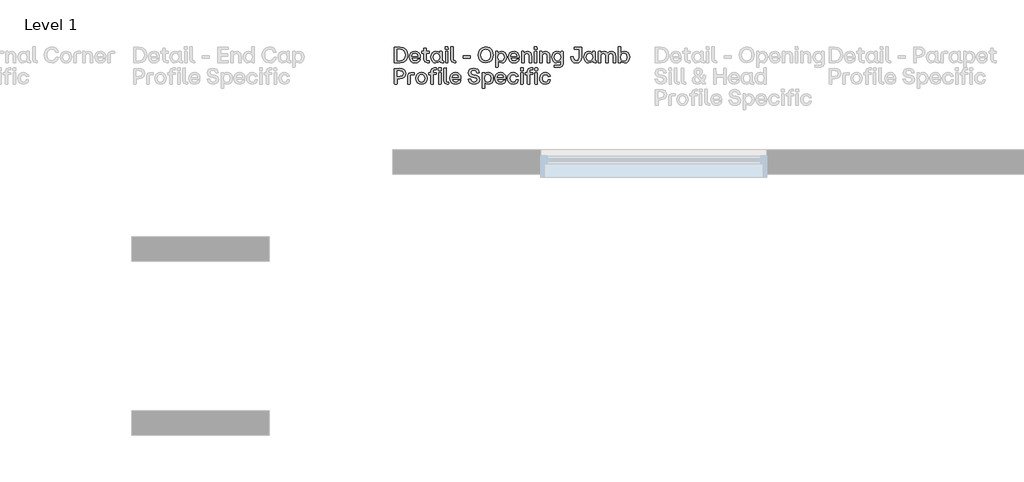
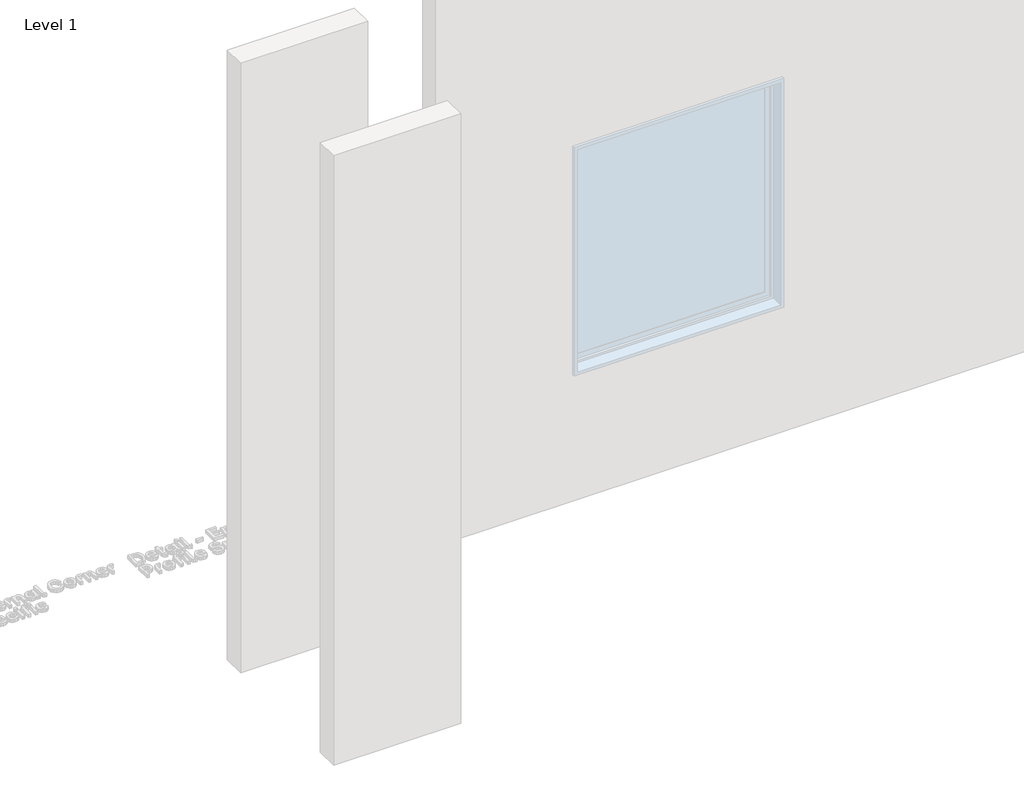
# One storey, part 60 of 64: 1 proxy.
"""IFC4 building model written with IfcOpenShell, lengths in millimetres."""

from ifc_helpers import new_model, si_unit, origin, origin_with_axes, place, context, project, spatial, polyline, outline, extrude, element, save

model = new_model("IFC4")

# Units and contexts
model_context = context("Model", 3, world=origin())
ifc_project = project(units=[si_unit("LENGTHUNIT", "METRE", prefix="MILLI")], contexts=[model_context])

# Site, building, storey
site = spatial("IfcSite", under=ifc_project)
building = spatial("IfcBuilding", under=site)
storey = spatial("IfcBuildingStorey", under=building, Name="Level 1", Elevation=0.0)

# Proxy
placement = place(None, origin())
element("IfcBuildingElementProxy", 1, Name="90mm", ObjectType="90mm", at=placement, inside=storey, context=model_context, shape_type="SweptSolid", body=[
    extrude(outline(polyline([(13610.2926176, 6000.0), (13608.9872124, 6001.2551973), (13608.9872124, 6088.6922388), (13642.5511873, 6089.997644), (13660.5475781, 6086.9945845), (13674.1193986, 6077.9854062), (13682.63905, 6063.6416394), (13685.4789338, 6044.6348148), (13682.648464, 6025.7974418), (13674.1570545, 6011.7109905), (13660.594648, 6002.9277476), (13642.5511873, 6000.0), (13610.2926176, 6000.0)]), holes=[polyline([(13623.7985402, 6012.6272845), (13641.6725492, 6012.6272845), (13653.8950326, 6014.688946), (13662.9481429, 6020.8739305), (13668.5494607, 6030.9374746), (13670.4165666, 6044.6348148), (13668.5431847, 6058.4890546), (13662.923039, 6068.8224661), (13653.8636527, 6075.2522141), (13641.6725492, 6077.3954634), (13623.7985402, 6077.3954634), (13623.7985402, 6012.6272845)])]), origin_with_axes(), (0.0, 0.0, 1.0), 20.0),
    extrude(outline(polyline([(13727.628458, 5999.2468816), (13714.0409476, 6001.5156507), (13703.5035666, 6008.3219579), (13696.7443293, 6018.9377888), (13694.4912502, 6032.6351289), (13696.7349153, 6046.4987827), (13703.4659107, 6057.2118914), (13713.9938777, 6064.0652685), (13727.628458, 6066.3497275), (13740.1584647, 6064.0966484), (13749.7324819, 6057.3374111), (13755.8044987, 6046.6870623), (13757.8285043, 6032.7606486), (13757.8285043, 6029.3214081), (13756.573307, 6027.990899), (13709.1268503, 6027.990899), (13714.6497183, 6015.3134066), (13727.628458, 6010.7946965), (13738.0465953, 6013.0917075), (13743.4439436, 6019.5308695), (13744.8246606, 6020.5852352), (13756.1967478, 6020.5852352), (13754.1633282, 6011.2685335), (13747.8120301, 6004.8074055), (13738.8248176, 6000.6370126), (13727.628458, 5999.2468816)]), holes=[polyline([(13709.2523701, 6038.4090363), (13743.8205028, 6038.4090363), (13739.0633051, 6050.3710663), (13727.628458, 6054.7266008), (13714.8631018, 6050.5844498), (13709.2523701, 6038.4090363)])]), origin_with_axes(), (0.0, 0.0, 1.0), 20.0),
    extrude(outline(polyline([(13796.6140998, 6000.0), (13782.731618, 6004.7697496), (13777.9618684, 6018.6522314), (13777.9618684, 6054.2245219), (13766.7906127, 6054.2245219), (13765.4852076, 6064.2661), (13766.7906127, 6065.5212973), (13777.9618684, 6065.5212973), (13777.9618684, 6083.54593), (13779.2170657, 6084.8513352), (13790.9657121, 6084.8513352), (13792.2209094, 6083.54593), (13792.2209094, 6065.5212973), (13808.0363949, 6065.5212973), (13809.3418001, 6064.2661), (13809.3418001, 6055.555031), (13792.2209094, 6054.2245219), (13792.2209094, 6011.2967754), (13808.0363949, 6011.2967754), (13809.3418001, 6010.0415781), (13809.3418001, 6001.2551973), (13808.0363949, 6000.0), (13796.6140998, 6000.0)])), origin_with_axes(), (0.0, 0.0, 1.0), 20.0),
    extrude(outline(polyline([(13847.2738615, 5999.2468816), (13835.3243835, 6001.5156507), (13826.0861316, 6008.3219579), (13820.1741525, 6018.9377888), (13818.2034928, 6032.6351289), (13820.1741525, 6046.4674028), (13826.0861316, 6057.1867875), (13835.3243835, 6064.0589925), (13847.2738615, 6066.3497275), (13859.1856835, 6063.4627738), (13868.160344, 6055.555031), (13868.7377347, 6064.2661), (13869.992932, 6065.5212973), (13881.6662665, 6065.5212973), (13882.9716717, 6064.2661), (13882.9716717, 6011.2967754), (13890.0760882, 6011.2967754), (13891.3312855, 6010.0415781), (13891.3312855, 6001.2551973), (13890.0760882, 6000.0), (13880.536589, 6000.0), (13872.1581473, 6002.3534949), (13869.3653333, 6009.4139795), (13859.7254183, 6002.1338354), (13847.2738615, 5999.2468816)]), holes=[polyline([(13832.7135732, 6032.6351289), (13837.6716024, 6016.6313638), (13843.5365116, 6012.2538633), (13851.2151809, 6010.7946965), (13858.7714684, 6012.2475873), (13864.470064, 6016.6062598), (13869.2398136, 6032.6351289), (13864.4324081, 6048.8271737), (13858.7243985, 6053.251744), (13851.2151809, 6054.7266008), (13843.5365116, 6053.251744), (13837.6716024, 6048.8271737), (13832.7135732, 6032.6351289)])]), origin_with_axes(), (0.0, 0.0, 1.0), 20.0),
    extrude(outline(polyline([(13903.6824266, 6000.0), (13902.3770214, 6001.2551973), (13902.3770214, 6064.2661), (13903.6824266, 6065.5212973), (13915.3557612, 6065.5212973), (13916.6109584, 6064.2661), (13916.6109584, 6001.2551973), (13915.3557612, 6000.0), (13903.6824266, 6000.0)])), origin_with_axes(), (0.0, 0.0, 1.0), 20.0),
    extrude(outline(polyline([(13901.3728636, 6078.1485818), (13901.3728636, 6092.0059596), (13902.6280609, 6093.3364687), (13916.4854387, 6093.3364687), (13917.8159478, 6078.1485818), (13916.4854387, 6076.8933845), (13902.6280609, 6076.8933845), (13901.3728636, 6078.1485818)])), origin_with_axes(), (0.0, 0.0, 1.0), 20.0),
    extrude(outline(polyline([(13951.5305464, 6000.0), (13937.6731686, 6004.7697496), (13932.903419, 6018.6522314), (13932.903419, 6091.2528413), (13945.8821587, 6092.5833504), (13947.137356, 6091.2528413), (13947.137356, 6011.2967754), (13959.1370418, 6011.2967754), (13960.3922391, 6010.0415781), (13960.3922391, 6001.2551973), (13959.1370418, 6000.0), (13951.5305464, 6000.0)])), origin_with_axes(), (0.0, 0.0, 1.0), 20.0),
    extrude(outline(polyline([(14005.1776775, 6027.112261), (14003.9224803, 6028.4427701), (14003.9224803, 6038.4090363), (14005.1776775, 6039.7395454), (14043.7875455, 6039.7395454), (14045.0427427, 6038.4090363), (14045.0427427, 6028.4427701), (14043.7875455, 6027.112261), (14005.1776775, 6027.112261)])), origin_with_axes(), (0.0, 0.0, 1.0), 20.0),
    extrude(outline(polyline([(14133.1575908, 5999.2468816), (14115.6946589, 6002.3534949), (14102.0663545, 6011.6733346), (14093.2831117, 6026.1269311), (14090.355364, 6044.6348148), (14093.2893876, 6063.37491), (14102.0914585, 6078.07327), (14115.7260388, 6087.5813893), (14133.1575908, 6090.7507624), (14155.6883817, 6085.0396148), (14164.302173, 6078.1360298), (14170.6879891, 6068.8475701), (14175.9598176, 6044.6348148), (14170.6879891, 6020.8362746), (14164.302173, 6011.7047145), (14155.6883817, 6004.8952693), (14133.1575908, 5999.2468816)]), holes=[polyline([(14105.4177312, 6044.6348148), (14107.2848372, 6031.0692703), (14112.886155, 6020.647995), (14121.6882258, 6014.0111395), (14133.1575908, 6011.7988543), (14144.6740257, 6014.0048635), (14153.4666826, 6020.6228911), (14159.0397584, 6031.0378904), (14160.8974504, 6044.6348148), (14159.0303445, 6058.5047446), (14153.4290267, 6069.1362654), (14144.6269558, 6075.8955027), (14133.1575908, 6078.1485818), (14121.6882258, 6075.8955027), (14112.886155, 6069.1362654), (14107.2848372, 6058.5047446), (14105.4177312, 6044.6348148)])]), origin_with_axes(), (0.0, 0.0, 1.0), 20.0),
    extrude(outline(polyline([(14191.2732242, 5975.5989651), (14189.9678191, 5976.8541624), (14189.9678191, 6064.2661), (14191.2732242, 6065.5212973), (14202.3189602, 6065.5212973), (14203.5741575, 6064.2661), (14203.5741575, 6055.6805507), (14213.2140725, 6063.4627738), (14225.6656293, 6066.3497275), (14237.6151073, 6064.0746824), (14246.8533592, 6057.2495473), (14252.7653383, 6046.6086125), (14254.735998, 6032.8861684), (14252.7653383, 6019.0789984), (14246.8533592, 6008.3847177), (14237.6151073, 6001.5313407), (14225.6656293, 5999.2468816), (14213.7538073, 6002.1338354), (14204.7791468, 6010.0415781), (14204.2017561, 5976.8541624), (14202.9465588, 5975.5989651), (14191.2732242, 5975.5989651)]), holes=[polyline([(14203.6996772, 6032.8861684), (14208.5070827, 6016.6941236), (14214.2150923, 6012.2695533), (14221.7243099, 6010.7946965), (14229.4029792, 6012.2695533), (14235.2678884, 6016.6941236), (14240.2259176, 6032.8861684), (14235.2678884, 6048.8899335), (14229.4029792, 6053.267434), (14221.7243099, 6054.7266008), (14214.1680224, 6053.276848), (14208.4694268, 6048.9275894), (14203.6996772, 6032.8861684)])]), origin_with_axes(), (0.0, 0.0, 1.0), 20.0),
    extrude(outline(polyline([(14296.3834433, 5999.2468816), (14282.7959329, 6001.5156507), (14272.2585519, 6008.3219579), (14265.4993146, 6018.9377888), (14263.2462355, 6032.6351289), (14265.4899006, 6046.4987827), (14272.2208959, 6057.2118914), (14282.748863, 6064.0652685), (14296.3834433, 6066.3497275), (14308.91345, 6064.0966484), (14318.4874672, 6057.3374111), (14324.559484, 6046.6870623), (14326.5834895, 6032.7606486), (14326.5834895, 6029.3214081), (14325.3282923, 6027.990899), (14277.8818356, 6027.990899), (14283.4047036, 6015.3134066), (14296.3834433, 6010.7946965), (14306.8015806, 6013.0917075), (14312.1989289, 6019.5308695), (14313.5796459, 6020.5852352), (14324.9517331, 6020.5852352), (14322.9183135, 6011.2685335), (14316.5670154, 6004.8074055), (14307.5798029, 6000.6370126), (14296.3834433, 5999.2468816)]), holes=[polyline([(14278.0073553, 6038.4090363), (14312.5754881, 6038.4090363), (14307.8182904, 6050.3710663), (14296.3834433, 6054.7266008), (14283.6180871, 6050.5844498), (14278.0073553, 6038.4090363)])]), origin_with_axes(), (0.0, 0.0, 1.0), 20.0),
    extrude(outline(polyline([(14340.6919068, 6000.0), (14339.3865017, 6001.2551973), (14339.3865017, 6064.2661), (14340.6919068, 6065.5212973), (14351.7376428, 6065.5212973), (14352.99284, 6064.2661), (14352.99284, 6055.555031), (14362.2875758, 6063.6510534), (14374.2056738, 6066.3497275), (14384.1311462, 6064.4669316), (14391.4144284, 6058.8185439), (14395.8860686, 6049.5426361), (14397.3766154, 6036.7772799), (14397.3766154, 6001.2551973), (14396.0461063, 6000.0), (14384.3727717, 6000.0), (14383.0673665, 6001.2551973), (14383.0673665, 6036.7772799), (14379.5528142, 6050.057267), (14368.4443184, 6054.2245219), (14357.2354068, 6049.9945071), (14353.6204387, 6036.7772799), (14353.6204387, 6001.2551973), (14352.3652414, 6000.0), (14340.6919068, 6000.0)])), origin_with_axes(), (0.0, 0.0, 1.0), 20.0),
    extrude(outline(polyline([(14414.5979219, 6000.0), (14413.2925167, 6001.2551973), (14413.2925167, 6064.2661), (14414.5979219, 6065.5212973), (14426.2712564, 6065.5212973), (14427.5264537, 6064.2661), (14427.5264537, 6001.2551973), (14426.2712564, 6000.0), (14414.5979219, 6000.0)])), origin_with_axes(), (0.0, 0.0, 1.0), 20.0),
    extrude(outline(polyline([(14412.2883589, 6078.1485818), (14412.2883589, 6092.0059596), (14413.5435562, 6093.3364687), (14427.400934, 6093.3364687), (14428.7314431, 6078.1485818), (14427.400934, 6076.8933845), (14413.5435562, 6076.8933845), (14412.2883589, 6078.1485818)])), origin_with_axes(), (0.0, 0.0, 1.0), 20.0),
    extrude(outline(polyline([(14445.1243194, 6000.0), (14443.8189142, 6001.2551973), (14443.8189142, 6064.2661), (14445.1243194, 6065.5212973), (14456.1700553, 6065.5212973), (14457.4252526, 6064.2661), (14457.4252526, 6055.555031), (14466.7199883, 6063.6510534), (14478.6380864, 6066.3497275), (14488.5635588, 6064.4669316), (14495.8468409, 6058.8185439), (14500.3184812, 6049.5426361), (14501.8090279, 6036.7772799), (14501.8090279, 6001.2551973), (14500.4785188, 6000.0), (14488.8051842, 6000.0), (14487.4997791, 6001.2551973), (14487.4997791, 6036.7772799), (14483.9852267, 6050.057267), (14472.8767309, 6054.2245219), (14461.6678193, 6049.9945071), (14458.0528512, 6036.7772799), (14458.0528512, 6001.2551973), (14456.797654, 6000.0), (14445.1243194, 6000.0)])), origin_with_axes(), (0.0, 0.0, 1.0), 20.0),
    extrude(outline(polyline([(14527.5154679, 5975.5989651), (14526.1849588, 5976.8541624), (14526.1849588, 5985.6405433), (14527.5154679, 5986.8957405), (14564.4182676, 5986.8957405), (14564.4182676, 6010.0415781), (14554.8662164, 6002.1338354), (14542.9543943, 5999.2468816), (14531.0049163, 6001.5313407), (14521.7666645, 6008.3847177), (14515.8546853, 6019.0789984), (14513.8840256, 6032.8861684), (14515.8546853, 6046.6086125), (14521.7666645, 6057.2495473), (14531.0049163, 6064.0746824), (14542.9543943, 6066.3497275), (14555.4059512, 6063.4627738), (14564.5437873, 6055.6805507), (14565.0458662, 6064.2661), (14566.3010635, 6065.5212973), (14577.3467994, 6065.5212973), (14578.6522046, 6064.2661), (14578.6522046, 5993.5984939), (14574.0079747, 5980.2055391), (14560.6526758, 5975.5989651), (14527.5154679, 5975.5989651)]), holes=[polyline([(14528.394106, 6032.8861684), (14533.3521352, 6016.6941236), (14539.2170444, 6012.2695533), (14546.8957137, 6010.7946965), (14554.4049314, 6012.2695533), (14560.1129409, 6016.6941236), (14564.9203465, 6032.8861684), (14560.1505969, 6048.9275894), (14554.4520013, 6053.276848), (14546.8957137, 6054.7266008), (14539.2170444, 6053.267434), (14533.3521352, 6048.8899335), (14528.394106, 6032.8861684)])]), origin_with_axes(), (0.0, 0.0, 1.0), 20.0),
    extrude(outline(polyline([(14677.4111255, 6007.6567033), (14667.517033, 6001.3493371), (14653.8008649, 5999.2468816), (14640.0784208, 6001.3430611), (14630.1655004, 6007.6315994), (14624.1593814, 6018.0120808), (14622.1573418, 6032.3840895), (14623.4125391, 6033.8401183), (14635.6632644, 6033.8401183), (14636.9184617, 6032.5096092), (14641.0229567, 6016.7945394), (14653.7883129, 6011.7988543), (14661.3038066, 6013.0540516), (14666.5285652, 6016.8196434), (14670.6079563, 6032.6351289), (14670.6079563, 6077.3954634), (14643.3701756, 6077.3954634), (14642.0647705, 6078.6506607), (14642.0647705, 6088.6922388), (14684.1138789, 6089.997644), (14685.419284, 6032.6351289), (14683.4172444, 6018.1062206), (14677.4111255, 6007.6567033)])), origin_with_axes(), (0.0, 0.0, 1.0), 20.0),
    extrude(outline(polyline([(14726.1127794, 5999.2468816), (14714.1633014, 6001.5156507), (14704.9250495, 6008.3219579), (14699.0130704, 6018.9377888), (14697.0424107, 6032.6351289), (14699.0130704, 6046.4674028), (14704.9250495, 6057.1867875), (14714.1633014, 6064.0589925), (14726.1127794, 6066.3497275), (14738.0246015, 6063.4627738), (14746.9992619, 6055.555031), (14747.5766527, 6064.2661), (14748.8318499, 6065.5212973), (14760.5051845, 6065.5212973), (14761.8105897, 6064.2661), (14761.8105897, 6011.2967754), (14768.9150062, 6011.2967754), (14770.1702034, 6010.0415781), (14770.1702034, 6001.2551973), (14768.9150062, 6000.0), (14759.375507, 6000.0), (14750.9970652, 6002.3534949), (14748.2042513, 6009.4139795), (14738.5643363, 6002.1338354), (14726.1127794, 5999.2468816)]), holes=[polyline([(14711.5524911, 6032.6351289), (14716.5105203, 6016.6313638), (14722.3754295, 6012.2538633), (14730.0540988, 6010.7946965), (14737.6103864, 6012.2475873), (14743.3089819, 6016.6062598), (14748.0787316, 6032.6351289), (14743.271326, 6048.8271737), (14737.5633165, 6053.251744), (14730.0540988, 6054.7266008), (14722.3754295, 6053.251744), (14716.5105203, 6048.8271737), (14711.5524911, 6032.6351289)])]), origin_with_axes(), (0.0, 0.0, 1.0), 20.0),
    extrude(outline(polyline([(14782.5213445, 6000.0), (14781.2159394, 6001.2551973), (14781.2159394, 6064.2661), (14782.5213445, 6065.5212973), (14793.5670805, 6065.5212973), (14794.8222778, 6064.2661), (14794.8222778, 6055.555031), (14803.7969382, 6063.6510534), (14815.4075129, 6066.3497275), (14826.7231163, 6063.6510534), (14834.3107838, 6055.555031), (14844.7916809, 6063.5506376), (14857.8331805, 6066.3497275), (14867.4668195, 6064.4732076), (14874.5273042, 6058.8436478), (14878.8577347, 6049.574016), (14880.3012116, 6036.7772799), (14880.3012116, 6001.2551973), (14879.0460143, 6000.0), (14867.3224719, 6000.0), (14866.0672746, 6001.2551973), (14866.0672746, 6036.7772799), (14862.678242, 6050.057267), (14851.9337534, 6054.2245219), (14841.3022325, 6049.9945071), (14837.875544, 6036.7772799), (14837.875544, 6001.2551973), (14836.6203467, 6000.0), (14824.8968043, 6000.0), (14823.641607, 6001.2551973), (14823.641607, 6036.7772799), (14820.2776783, 6050.057267), (14809.6336055, 6054.2245219), (14798.8765649, 6049.9945071), (14795.4498764, 6036.7772799), (14795.4498764, 6001.2551973), (14794.1946791, 6000.0), (14782.5213445, 6000.0)])), origin_with_axes(), (0.0, 0.0, 1.0), 20.0),
    extrude(outline(polyline([(14930.9860772, 5999.2468816), (14918.5345203, 6002.1338354), (14909.3966842, 6009.9160584), (14908.8946053, 6001.2551973), (14907.639408, 6000.0), (14896.5936721, 6000.0), (14895.2882669, 6001.2551973), (14895.2882669, 6091.2528413), (14908.2670067, 6092.5833504), (14909.5222039, 6091.2528413), (14909.5222039, 6055.555031), (14919.0742551, 6063.4627738), (14930.9860772, 6066.3497275), (14942.9355552, 6064.0589925), (14952.1738071, 6057.1867875), (14958.0857862, 6046.4674028), (14960.0564459, 6032.6351289), (14958.0857862, 6018.9377888), (14952.1738071, 6008.3219579), (14942.9355552, 6001.5156507), (14930.9860772, 5999.2468816)]), holes=[polyline([(14909.020125, 6032.6351289), (14913.7898747, 6016.6062598), (14919.4884702, 6012.2475873), (14927.0447578, 6010.7946965), (14934.7234271, 6012.2538633), (14940.5883363, 6016.6313638), (14945.5463655, 6032.6351289), (14940.5883363, 6048.8271737), (14934.7234271, 6053.251744), (14927.0447578, 6054.7266008), (14919.5355401, 6053.251744), (14913.8275306, 6048.8271737), (14909.020125, 6032.6351289)])]), origin_with_axes(), (0.0, 0.0, 1.0), 20.0),
    extrude(outline(polyline([(13610.2926176, 5877.86695), (13608.9872124, 5879.1221472), (13608.9872124, 5966.5591888), (13640.1161046, 5967.864594), (13654.0174144, 5965.9661081), (13664.3414119, 5960.2706505), (13670.7429179, 5951.0763305), (13672.8767533, 5938.6812575), (13670.7429179, 5926.2861845), (13664.3414119, 5917.0918646), (13654.0174144, 5911.396407), (13640.1161046, 5909.4979211), (13623.7985402, 5909.4979211), (13623.7985402, 5879.1221472), (13622.4680311, 5877.86695), (13610.2926176, 5877.86695)]), holes=[polyline([(13623.7985402, 5922.1252056), (13640.1161046, 5922.1252056), (13653.5969233, 5926.2045967), (13657.9901137, 5938.6938095), (13653.5969233, 5951.1830223), (13640.1161046, 5955.2624134), (13623.7985402, 5955.2624134), (13623.7985402, 5922.1252056)])]), origin_with_axes(), (0.0, 0.0, 1.0), 20.0),
    extrude(outline(polyline([(13686.1065325, 5877.86695), (13684.8513352, 5879.1221472), (13684.8513352, 5924.8113277), (13689.6210848, 5938.6561536), (13703.4784626, 5943.3882473), (13721.7541348, 5943.3882473), (13723.0093321, 5942.13305), (13723.0093321, 5932.5935508), (13721.7541348, 5931.3383535), (13699.0852722, 5931.3383535), (13699.0852722, 5879.1221472), (13697.8300749, 5877.86695), (13686.1065325, 5877.86695)])), origin_with_axes(), (0.0, 0.0, 1.0), 20.0),
    extrude(outline(polyline([(13764.2049064, 5877.1138316), (13750.9782652, 5879.4202566), (13740.519334, 5886.3395315), (13733.7130268, 5896.9930183), (13731.4442577, 5910.5020789), (13733.7193028, 5924.0990033), (13740.5444379, 5934.8654578), (13751.0096451, 5941.8788726), (13764.2049064, 5944.2166775), (13777.5570673, 5941.8788726), (13788.0913103, 5934.8654578), (13794.9352734, 5924.0990033), (13797.2165945, 5910.5020789), (13794.9352734, 5896.9930183), (13788.0913103, 5886.3395315), (13777.5570673, 5879.4202566), (13764.2049064, 5877.1138316)]), holes=[polyline([(13745.9543381, 5910.5020789), (13750.8119515, 5894.4732098), (13756.588997, 5890.1145373), (13764.2049064, 5888.6616465), (13771.9024036, 5890.1208133), (13777.7735888, 5894.4983138), (13782.731618, 5910.5020789), (13777.7986928, 5926.6941236), (13771.9337835, 5931.118694), (13764.2049064, 5932.5935508), (13756.588997, 5931.118694), (13750.8119515, 5926.6941236), (13745.9543381, 5910.5020789)])]), origin_with_axes(), (0.0, 0.0, 1.0), 20.0),
    extrude(outline(polyline([(13819.3833782, 5877.86695), (13818.1281809, 5879.1221472), (13818.1281809, 5932.0914719), (13806.9569253, 5932.0914719), (13805.6515201, 5942.13305), (13806.9569253, 5943.3882473), (13818.1281809, 5943.3882473), (13818.1281809, 5951.798069), (13822.8979305, 5965.6805507), (13836.7804123, 5970.4503003), (13848.2027074, 5970.4503003), (13849.5081126, 5960.4087222), (13832.3872219, 5959.0782131), (13832.3872219, 5943.3882473), (13848.2027074, 5943.3882473), (13849.5081126, 5942.13305), (13849.5081126, 5933.421981), (13832.3872219, 5932.0914719), (13832.3872219, 5879.1221472), (13831.1320246, 5877.86695), (13819.3833782, 5877.86695)])), origin_with_axes(), (0.0, 0.0, 1.0), 20.0),
    extrude(outline(polyline([(13861.3069669, 5956.0155318), (13861.3069669, 5969.8729096), (13862.5621642, 5971.2034187), (13876.4948538, 5971.2034187), (13877.7500511, 5969.8729096), (13877.7500511, 5956.0155318), (13876.4948538, 5954.7603345), (13862.5621642, 5954.7603345), (13861.3069669, 5956.0155318)])), origin_with_axes(), (0.0, 0.0, 1.0), 20.0),
    extrude(outline(polyline([(13862.3111247, 5879.1221472), (13862.3111247, 5942.13305), (13863.6416338, 5943.3882473), (13875.3149684, 5943.3882473), (13876.6203735, 5942.13305), (13876.6203735, 5879.1221472), (13875.3149684, 5877.86695), (13863.6416338, 5877.86695), (13862.3111247, 5879.1221472)])), origin_with_axes(), (0.0, 0.0, 1.0), 20.0),
    extrude(outline(polyline([(13911.3642339, 5877.86695), (13897.506856, 5882.6366996), (13892.7371064, 5896.5191814), (13892.7371064, 5969.1197912), (13905.7158462, 5970.4503003), (13906.9710434, 5969.1197912), (13906.9710434, 5889.1637254), (13918.9707293, 5889.1637254), (13920.2259266, 5887.9085281), (13920.2259266, 5879.1221472), (13918.9707293, 5877.86695), (13911.3642339, 5877.86695)])), origin_with_axes(), (0.0, 0.0, 1.0), 20.0),
    extrude(outline(polyline([(13960.5930707, 5877.1138316), (13947.0055602, 5879.3826007), (13936.4681792, 5886.1889079), (13929.7089419, 5896.8047387), (13927.4558628, 5910.5020789), (13929.6995279, 5924.3657327), (13936.4305233, 5935.0788414), (13946.9584903, 5941.9322185), (13960.5930707, 5944.2166775), (13973.1230774, 5941.9635984), (13982.6970945, 5935.2043611), (13988.7691113, 5924.5540123), (13990.7931169, 5910.6275986), (13990.7931169, 5907.1883581), (13989.5379196, 5905.857849), (13942.0914629, 5905.857849), (13947.6143309, 5893.1803566), (13960.5930707, 5888.6616465), (13971.011208, 5890.9586575), (13976.4085562, 5897.3978194), (13977.7892732, 5898.4521852), (13989.1613604, 5898.4521852), (13987.1279409, 5889.1354834), (13980.7766427, 5882.6743555), (13971.7894303, 5878.5039626), (13960.5930707, 5877.1138316)]), holes=[polyline([(13942.2169827, 5916.2759863), (13976.7851154, 5916.2759863), (13972.0279177, 5928.2380163), (13960.5930707, 5932.5935508), (13947.8277145, 5928.4513998), (13942.2169827, 5916.2759863)])]), origin_with_axes(), (0.0, 0.0, 1.0), 20.0),
    extrude(outline(polyline([(14066.8831752, 5877.1138316), (14053.1136611, 5878.9652476), (14042.4319324, 5884.5194955), (14035.1706162, 5893.4941559), (14031.6623399, 5905.6068096), (14044.917223, 5907.0628384), (14046.2226282, 5905.857849), (14052.4107507, 5893.3058764), (14066.8831752, 5889.4147648), (14079.3974919, 5892.992077), (14083.8785461, 5902.9206874), (14080.7782089, 5911.1673335), (14070.3977275, 5915.2718285), (14058.5235614, 5917.355456), (14047.5186193, 5920.6095549), (14039.6579465, 5925.9284533), (14034.9415427, 5933.3121512), (14033.3694082, 5942.7606486), (14035.3839998, 5953.602415), (14041.4277746, 5961.7768872), (14051.0802416, 5966.9075061), (14063.9209096, 5968.6177123), (14076.6548859, 5966.8855401), (14086.5897722, 5961.6890234), (14093.3803895, 5953.3356856), (14096.6815583, 5942.13305), (14083.501987, 5940.7021251), (14082.0710621, 5942.13305), (14076.2594987, 5952.8398827), (14063.9209096, 5956.2665712), (14052.1597112, 5953.1285781), (14048.1054241, 5943.965638), (14051.7203922, 5935.267121), (14063.0422715, 5930.7107549), (14074.8411258, 5928.6522314), (14085.6609263, 5925.4828583), (14093.0163822, 5920.3930334), (14097.2338451, 5913.0626813), (14098.639666, 5903.1717269), (14096.5277966, 5892.2577866), (14090.1921884, 5884.0174166), (14080.1411963, 5878.8397279), (14066.8831752, 5877.1138316)])), origin_with_axes(), (0.0, 0.0, 1.0), 20.0),
    extrude(outline(polyline([(14114.1539042, 5853.4659151), (14112.848499, 5854.7211124), (14112.848499, 5942.13305), (14114.1539042, 5943.3882473), (14125.1996401, 5943.3882473), (14126.4548374, 5942.13305), (14126.4548374, 5933.5475007), (14136.0947524, 5941.3297238), (14148.5463093, 5944.2166775), (14160.4957873, 5941.9416324), (14169.7340392, 5935.1164973), (14175.6460183, 5924.4755625), (14177.616678, 5910.7531184), (14175.6460183, 5896.9459484), (14169.7340392, 5886.2516677), (14160.4957873, 5879.3982906), (14148.5463093, 5877.1138316), (14136.6344872, 5880.0007853), (14127.6598268, 5887.9085281), (14127.082436, 5854.7211124), (14125.8272388, 5853.4659151), (14114.1539042, 5853.4659151)]), holes=[polyline([(14126.5803571, 5910.7531184), (14131.3877627, 5894.5610736), (14137.0957722, 5890.1365033), (14144.6049899, 5888.6616465), (14152.2836592, 5890.1365033), (14158.1485684, 5894.5610736), (14163.1065976, 5910.7531184), (14158.1485684, 5926.7568835), (14152.2836592, 5931.134384), (14144.6049899, 5932.5935508), (14137.0487023, 5931.143798), (14131.3501068, 5926.7945394), (14126.5803571, 5910.7531184)])]), origin_with_axes(), (0.0, 0.0, 1.0), 20.0),
    extrude(outline(polyline([(14219.2641233, 5877.1138316), (14205.6766129, 5879.3826007), (14195.1392318, 5886.1889079), (14188.3799945, 5896.8047387), (14186.1269155, 5910.5020789), (14188.3705806, 5924.3657327), (14195.1015759, 5935.0788414), (14205.629543, 5941.9322185), (14219.2641233, 5944.2166775), (14231.79413, 5941.9635984), (14241.3681471, 5935.2043611), (14247.4401639, 5924.5540123), (14249.4641695, 5910.6275986), (14249.4641695, 5907.1883581), (14248.2089722, 5905.857849), (14200.7625156, 5905.857849), (14206.2853836, 5893.1803566), (14219.2641233, 5888.6616465), (14229.6822606, 5890.9586575), (14235.0796088, 5897.3978194), (14236.4603258, 5898.4521852), (14247.8324131, 5898.4521852), (14245.7989935, 5889.1354834), (14239.4476953, 5882.6743555), (14230.4604829, 5878.5039626), (14219.2641233, 5877.1138316)]), holes=[polyline([(14200.8880353, 5916.2759863), (14235.456168, 5916.2759863), (14230.6989704, 5928.2380163), (14219.2641233, 5932.5935508), (14206.4987671, 5928.4513998), (14200.8880353, 5916.2759863)])]), origin_with_axes(), (0.0, 0.0, 1.0), 20.0),
    extrude(outline(polyline([(14291.4379661, 5877.1138316), (14277.9445955, 5879.3826007), (14267.4385944, 5886.1889079), (14260.6793571, 5896.8047387), (14258.426278, 5910.5020789), (14260.710737, 5924.0990033), (14267.5641141, 5934.8654578), (14278.1014951, 5941.8788726), (14291.4379661, 5944.2166775), (14302.4209422, 5942.6696468), (14311.3704987, 5938.028555), (14317.6841409, 5930.8456886), (14320.7593742, 5921.6733346), (14308.1320897, 5920.2926176), (14301.7054797, 5929.8321168), (14291.4379661, 5932.5935508), (14283.680847, 5931.118694), (14277.8316277, 5926.6941236), (14272.9363584, 5910.5020789), (14277.8567317, 5894.4355539), (14283.7122269, 5890.1051233), (14291.4379661, 5888.6616465), (14302.019279, 5891.2975607), (14307.3789714, 5899.8329021), (14308.7596884, 5901.0378915), (14320.1317756, 5901.0378915), (14318.12346, 5890.5287524), (14311.7470579, 5883.3019541), (14302.7033616, 5878.6608623), (14291.4379661, 5877.1138316)])), origin_with_axes(), (0.0, 0.0, 1.0), 20.0),
    extrude(outline(polyline([(14335.8719493, 5877.86695), (14334.5665442, 5879.1221472), (14334.5665442, 5942.13305), (14335.8719493, 5943.3882473), (14347.5452839, 5943.3882473), (14348.8004812, 5942.13305), (14348.8004812, 5879.1221472), (14347.5452839, 5877.86695), (14335.8719493, 5877.86695)])), origin_with_axes(), (0.0, 0.0, 1.0), 20.0),
    extrude(outline(polyline([(14333.5623863, 5956.0155318), (14333.5623863, 5969.8729096), (14334.8175836, 5971.2034187), (14348.6749614, 5971.2034187), (14350.0054705, 5956.0155318), (14348.6749614, 5954.7603345), (14334.8175836, 5954.7603345), (14333.5623863, 5956.0155318)])), origin_with_axes(), (0.0, 0.0, 1.0), 20.0),
    extrude(outline(polyline([(14373.678491, 5877.86695), (14372.4232937, 5879.1221472), (14372.4232937, 5932.0914719), (14361.252038, 5932.0914719), (14359.9466329, 5942.13305), (14361.252038, 5943.3882473), (14372.4232937, 5943.3882473), (14372.4232937, 5951.798069), (14377.1930433, 5965.6805507), (14391.0755251, 5970.4503003), (14402.4978202, 5970.4503003), (14403.8032254, 5960.4087222), (14386.6823347, 5959.0782131), (14386.6823347, 5943.3882473), (14402.4978202, 5943.3882473), (14403.8032254, 5942.13305), (14403.8032254, 5933.421981), (14386.6823347, 5932.0914719), (14386.6823347, 5879.1221472), (14385.4271374, 5877.86695), (14373.678491, 5877.86695)])), origin_with_axes(), (0.0, 0.0, 1.0), 20.0),
    extrude(outline(polyline([(14415.6020797, 5956.0155318), (14415.6020797, 5969.8729096), (14416.8572769, 5971.2034187), (14430.7899666, 5971.2034187), (14432.0451639, 5969.8729096), (14432.0451639, 5956.0155318), (14430.7899666, 5954.7603345), (14416.8572769, 5954.7603345), (14415.6020797, 5956.0155318)])), origin_with_axes(), (0.0, 0.0, 1.0), 20.0),
    extrude(outline(polyline([(14416.6062375, 5879.1221472), (14416.6062375, 5942.13305), (14417.9367466, 5943.3882473), (14429.6100812, 5943.3882473), (14430.9154863, 5942.13305), (14430.9154863, 5879.1221472), (14429.6100812, 5877.86695), (14417.9367466, 5877.86695), (14416.6062375, 5879.1221472)])), origin_with_axes(), (0.0, 0.0, 1.0), 20.0),
    extrude(outline(polyline([(14476.2030037, 5877.1138316), (14462.7096331, 5879.3826007), (14452.203632, 5886.1889079), (14445.4443947, 5896.8047387), (14443.1913156, 5910.5020789), (14445.4757746, 5924.0990033), (14452.3291517, 5934.8654578), (14462.8665327, 5941.8788726), (14476.2030037, 5944.2166775), (14487.1859798, 5942.6696468), (14496.1355363, 5938.028555), (14502.4491785, 5930.8456886), (14505.5244118, 5921.6733346), (14492.8971273, 5920.2926176), (14486.4705173, 5929.8321168), (14476.2030037, 5932.5935508), (14468.4458846, 5931.118694), (14462.5966653, 5926.6941236), (14457.701396, 5910.5020789), (14462.6217693, 5894.4355539), (14468.4772645, 5890.1051233), (14476.2030037, 5888.6616465), (14486.7843166, 5891.2975607), (14492.144009, 5899.8329021), (14493.524726, 5901.0378915), (14504.8968132, 5901.0378915), (14502.8884976, 5890.5287524), (14496.5120955, 5883.3019541), (14487.4683992, 5878.6608623), (14476.2030037, 5877.1138316)])), origin_with_axes(), (0.0, 0.0, 1.0), 20.0),
])

save(model, "model.ifc")
